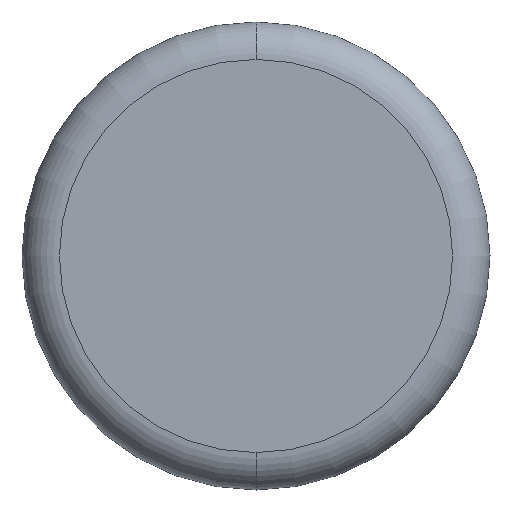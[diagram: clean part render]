
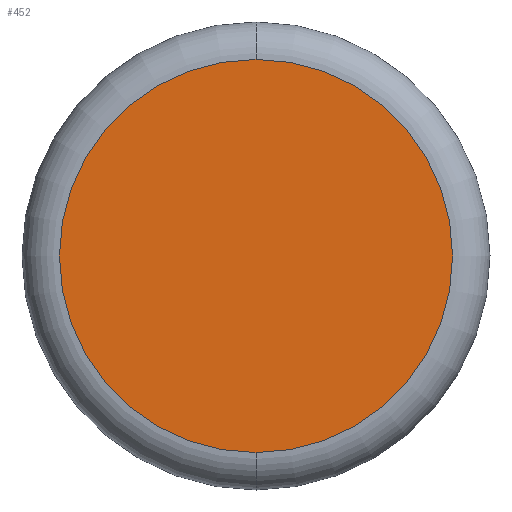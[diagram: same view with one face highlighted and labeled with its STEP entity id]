
A CAD part, front view. The second image highlights one B-rep face of the part: STEP entity #452.
In plain terms, the highlighted planar face has unit normal (0, -1, 0).
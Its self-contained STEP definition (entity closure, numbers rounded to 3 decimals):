
#14 = DIRECTION ( 'NONE',  ( 0., 0., 1. ) ) ;
#31 = CIRCLE ( 'NONE', #463, 5.25 ) ;
#37 = EDGE_LOOP ( 'NONE', ( #451, #420 ) ) ;
#92 = CARTESIAN_POINT ( 'NONE',  ( 0., 0., 0. ) ) ;
#124 = CARTESIAN_POINT ( 'NONE',  ( 0., 0., 5.25 ) ) ;
#142 = AXIS2_PLACEMENT_3D ( 'NONE', #92, #152, #377 ) ;
#152 = DIRECTION ( 'NONE',  ( 0., -1., 0. ) ) ;
#162 = VERTEX_POINT ( 'NONE', #396 ) ;
#187 = EDGE_CURVE ( 'NONE', #162, #390, #31, .T. ) ;
#193 = CARTESIAN_POINT ( 'NONE',  ( 0., 0., 0. ) ) ;
#196 = FACE_OUTER_BOUND ( 'NONE', #37, .T. ) ;
#198 = DIRECTION ( 'NONE',  ( 0., 1., 0. ) ) ;
#249 = CARTESIAN_POINT ( 'NONE',  ( 0., 0., 0. ) ) ;
#296 = DIRECTION ( 'NONE',  ( 0., 0., 1. ) ) ;
#307 = EDGE_CURVE ( 'NONE', #390, #162, #344, .T. ) ;
#314 = AXIS2_PLACEMENT_3D ( 'NONE', #193, #198, #14 ) ;
#337 = PLANE ( 'NONE',  #314 ) ;
#344 = CIRCLE ( 'NONE', #142, 5.25 ) ;
#377 = DIRECTION ( 'NONE',  ( 0., 0., 1. ) ) ;
#390 = VERTEX_POINT ( 'NONE', #124 ) ;
#396 = CARTESIAN_POINT ( 'NONE',  ( 0., 0., -5.25 ) ) ;
#420 = ORIENTED_EDGE ( 'NONE', *, *, #187, .T. ) ;
#451 = ORIENTED_EDGE ( 'NONE', *, *, #307, .T. ) ;
#452 = ADVANCED_FACE ( 'NONE', ( #196 ), #337, .F. ) ;
#463 = AXIS2_PLACEMENT_3D ( 'NONE', #249, #467, #296 ) ;
#467 = DIRECTION ( 'NONE',  ( 0., -1., 0. ) ) ;
